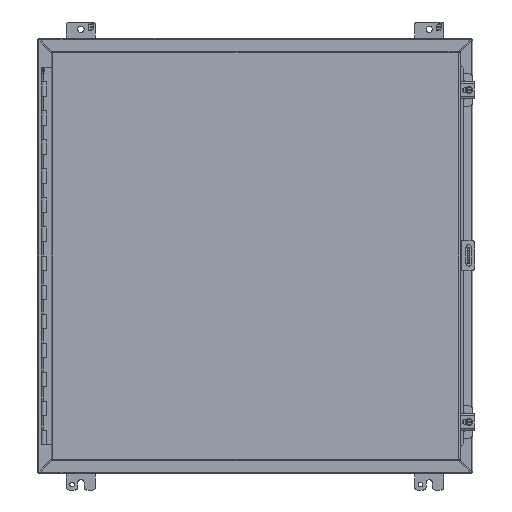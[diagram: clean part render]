
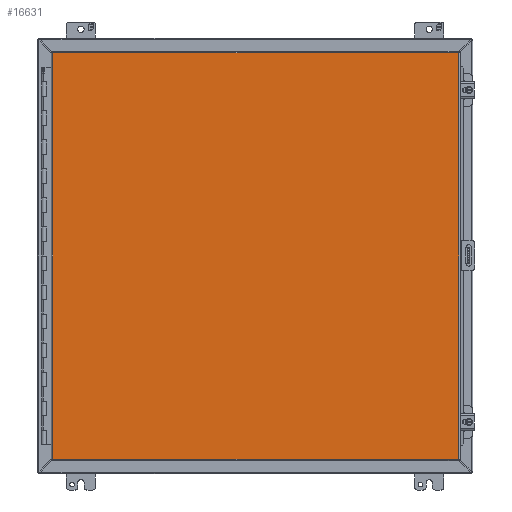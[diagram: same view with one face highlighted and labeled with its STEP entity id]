
A CAD part, front view. The second image highlights one B-rep face of the part: STEP entity #16631.
In plain terms, the highlighted planar face has unit normal (0, -1, 0).
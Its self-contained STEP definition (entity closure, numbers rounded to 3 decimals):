
#1345=LINE('',#24618,#2883);
#1346=LINE('',#24621,#2884);
#1347=LINE('',#24623,#2885);
#1348=LINE('',#24625,#2886);
#2883=VECTOR('',#20071,1000.);
#2884=VECTOR('',#20072,1000.);
#2885=VECTOR('',#20073,1000.);
#2886=VECTOR('',#20074,1000.);
#5737=ORIENTED_EDGE('',*,*,#9889,.T.);
#5738=ORIENTED_EDGE('',*,*,#9890,.T.);
#5739=ORIENTED_EDGE('',*,*,#9891,.T.);
#5740=ORIENTED_EDGE('',*,*,#9892,.T.);
#9889=EDGE_CURVE('',#12074,#12075,#1345,.T.);
#9890=EDGE_CURVE('',#12075,#12076,#1346,.T.);
#9891=EDGE_CURVE('',#12076,#12077,#1347,.T.);
#9892=EDGE_CURVE('',#12077,#12074,#1348,.T.);
#12074=VERTEX_POINT('',#24619);
#12075=VERTEX_POINT('',#24620);
#12076=VERTEX_POINT('',#24622);
#12077=VERTEX_POINT('',#24624);
#13966=EDGE_LOOP('',(#5737,#5738,#5739,#5740));
#15016=FACE_BOUND('',#13966,.T.);
#15942=PLANE('',#17847);
#16631=ADVANCED_FACE('',(#15016),#15942,.T.);
#17847=AXIS2_PLACEMENT_3D('',#24617,#20069,#20070);
#20069=DIRECTION('',(0.,-1.,0.));
#20070=DIRECTION('',(0.,0.,-1.));
#20071=DIRECTION('',(0.,0.,-1.));
#20072=DIRECTION('',(1.,0.,0.));
#20073=DIRECTION('',(0.,0.,1.));
#20074=DIRECTION('',(-1.,0.,0.));
#24617=CARTESIAN_POINT('',(-355.244,0.,-355.46));
#24618=CARTESIAN_POINT('',(-355.244,0.,355.46));
#24619=CARTESIAN_POINT('',(-355.244,0.,355.46));
#24620=CARTESIAN_POINT('',(-355.244,0.,-355.46));
#24621=CARTESIAN_POINT('',(-355.244,0.,-355.46));
#24622=CARTESIAN_POINT('',(355.244,0.,-355.46));
#24623=CARTESIAN_POINT('',(355.244,0.,-355.46));
#24624=CARTESIAN_POINT('',(355.244,0.,355.46));
#24625=CARTESIAN_POINT('',(355.244,0.,355.46));
